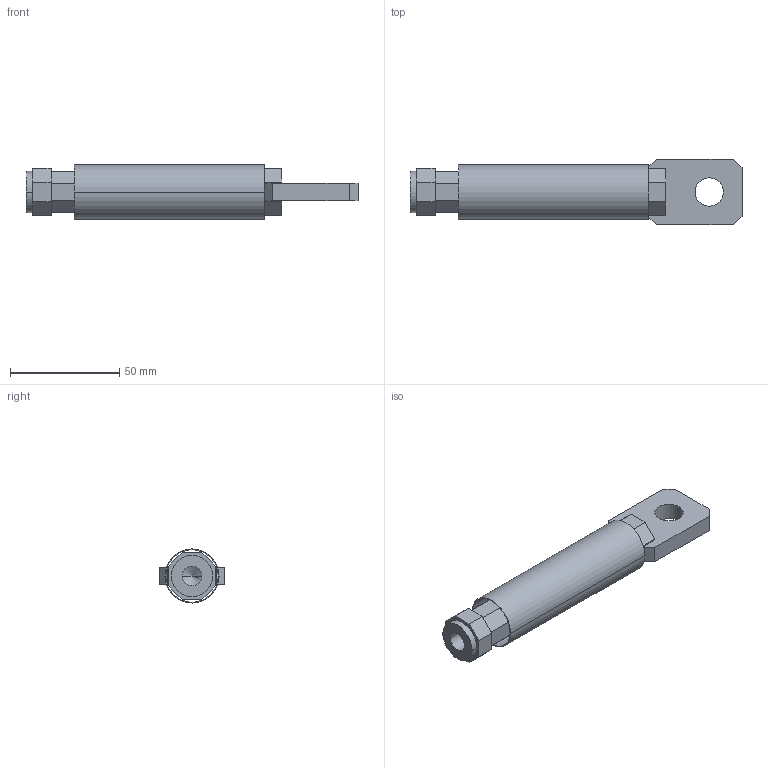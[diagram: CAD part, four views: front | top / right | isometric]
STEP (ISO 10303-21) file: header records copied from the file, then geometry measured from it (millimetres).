
FILE_DESCRIPTION((''),'2;1');
FILE_NAME('U6_LONG_LO_REAR_CONDUCTOR_ASSY_ASM','2018-06-04T',('HHI'),(''),'PRO/ENGINEER BY PARAMETRIC TECHNOLOGY CORPORATION, 2012453','PRO/ENGINEER BY PARAMETRIC TECHNOLOGY CORPORATION, 2012453','');
FILE_SCHEMA(('CONFIG_CONTROL_DESIGN'));
Length unit declared in the file: millimetre
Products named in the file (4): U6_LONG_LOAD_REAR_CONDUCTOR_AF0; U6_REAR_BUSBAR; U6_RCT_INSULATION_TUBE_AF0; U6_LONG_LO_REAR_CONDUCTOR_ASSY_ASM
Assembly tree (3 placements, depth 2):
  U6_LONG_LO_REAR_CONDUCTOR_ASSY_ASM
    U6_LONG_LOAD_REAR_CONDUCTOR_AF0
    U6_REAR_BUSBAR
    U6_RCT_INSULATION_TUBE_AF0
Bounding box: 152 x 30 x 24.8 mm (x, y, z)
Volume: 50417.1 mm3; surface area: 27044 mm2
Topology: 3 solids, 3 shells, 93 faces, 238 edges, 157 vertices
Faces by surface type: plane 81, cylinder 10, cone 2
Entity records: 2878 total; most frequent: CARTESIAN_POINT 493, ORIENTED_EDGE 472, DIRECTION 456, EDGE_CURVE 236, VECTOR 216, LINE 216, VERTEX_POINT 157, AXIS2_PLACEMENT_3D 120
